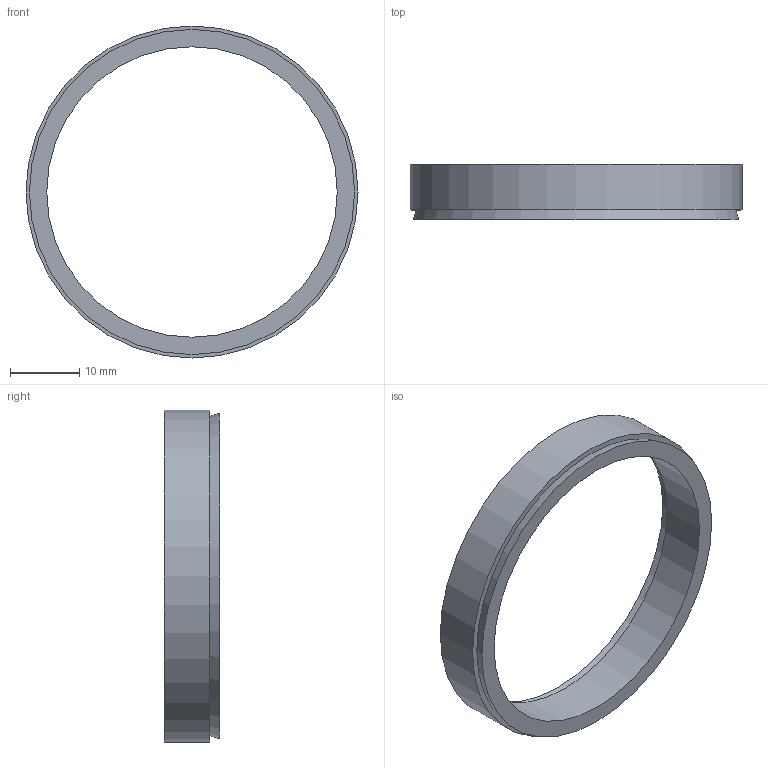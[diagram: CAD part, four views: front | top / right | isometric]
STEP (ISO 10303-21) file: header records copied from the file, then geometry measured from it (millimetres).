
FILE_DESCRIPTION( ( 'Unknown' ), '1' );
FILE_NAME( 'C:/Dokumente und Einstellungen/Sven/Desktop/homepage/cad - homepage/KBS50/KBS 50 - 42 x 48.stp', 'Unknown', ( 'Unknown' ), ( 'Unknown' ), 'XStep 1.0', 'Unknown', ' ' );
FILE_SCHEMA( ( 'automotive_design' ) );
Length unit declared in the file: millimetre
Products named in the file (1): 1
Bounding box: 48 x 8 x 48 mm (x, y, z)
Volume: 3125.7 mm3; surface area: 3221.3 mm2
Topology: 1 solids, 1 shells, 8 faces, 12 edges, 8 vertices
Faces by surface type: plane 4, cylinder 2, cone 2
Full cylindrical faces by diameter (mm): 42 x1, 48 x1
Entity records: 248 total; most frequent: DIRECTION 34, CARTESIAN_POINT 25, AXIS2_PLACEMENT_3D 17, EDGE_LOOP 16, ORIENTED_EDGE 16, FACE_OUTER_BOUND 10, STYLED_ITEM 8, PRESENTATION_STYLE_ASSIGNMENT 8
